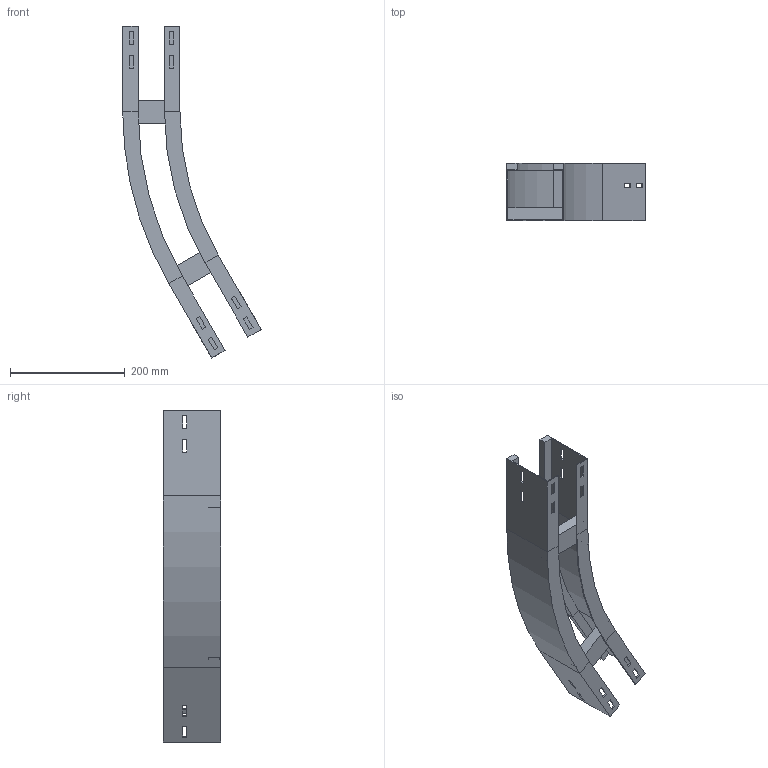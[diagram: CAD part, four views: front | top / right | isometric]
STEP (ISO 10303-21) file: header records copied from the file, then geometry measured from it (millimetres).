
FILE_DESCRIPTION (( 'STEP AP214' ), '1' );
FILE_NAME ('12B5D100.step', '2025-02-21T15:06:27', ( '' ), ( '' ), 'SwSTEP 2.0', 'SolidWorks 2023', '' );
FILE_SCHEMA (( 'AUTOMOTIVE_DESIGN' ));
Length unit declared in the file: millimetre
Products named in the file (4): TRAVERSINO_100; A2_LONGH.INTERNO 30°_H100_R500; 12B5D100; A2_LONGH.ESTERNO 30°_H100_R500+100
Assembly tree (4 placements, depth 2):
  12B5D100
    A2_LONGH.INTERNO 30°_H100_R500
    A2_LONGH.ESTERNO 30°_H100_R500+100
    TRAVERSINO_100  x2
Bounding box: 241.99 x 100 x 579.9 mm (x, y, z)
Volume: 670365.7 mm3; surface area: 361492.2 mm2
Topology: 4 solids, 4 shells, 128 faces, 328 edges, 208 vertices
Faces by surface type: plane 120, cylinder 8
Entity records: 3813 total; most frequent: CARTESIAN_POINT 645, ORIENTED_EDGE 632, DIRECTION 590, EDGE_CURVE 316, LINE 300, VECTOR 300, VERTEX_POINT 200, EDGE_LOOP 154
